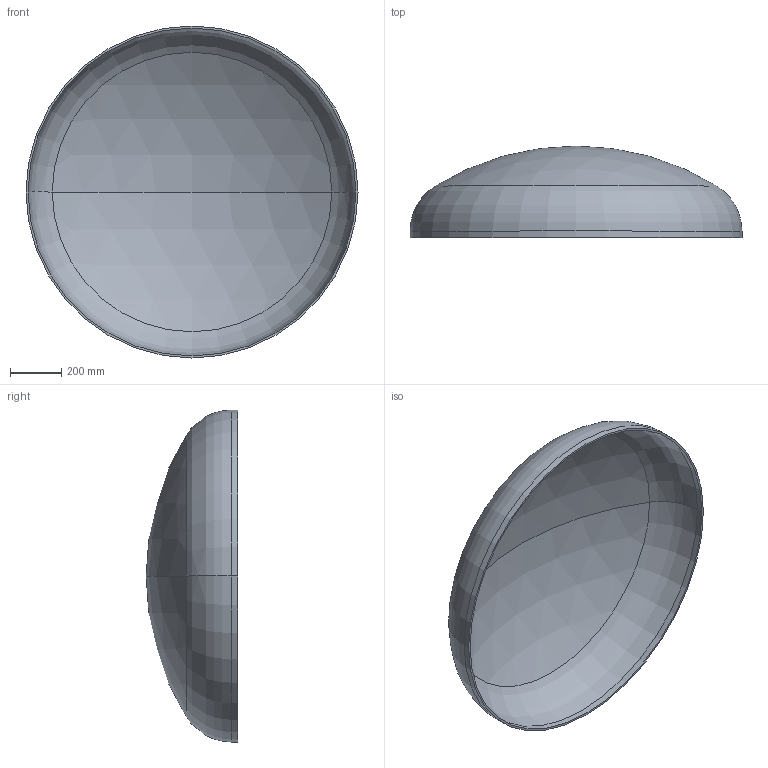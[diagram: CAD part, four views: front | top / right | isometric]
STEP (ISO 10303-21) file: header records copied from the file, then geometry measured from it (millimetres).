
FILE_DESCRIPTION (( 'STEP AP203' ), '1' );
FILE_NAME ('DIN 28013 Korbbogenform_-_Boden DIN 28013 - 1300 x 25 - I - s=8.step', '2016-07-01T09:42:04', ( '' ), ( '' ), 'SwSTEP 2.0', 'SolidWorks 2013', '' );
FILE_SCHEMA (( 'CONFIG_CONTROL_DESIGN' ));
Length unit declared in the file: millimetre
Products named in the file (1): DIN 28013 Korbbogenform_-_Boden DIN 28013 - 1300 x 25 - I - s=8
Bounding box: 1300 x 358.69 x 1300 mm (x, y, z)
Volume: 15396663.7 mm3; surface area: 3881770 mm2
Topology: 1 solids, 1 shells, 13 faces, 24 edges, 14 vertices
Faces by surface type: torus 4, cylinder 4, sphere 4, plane 1
Entity records: 407 total; most frequent: DIRECTION 72, CARTESIAN_POINT 52, ORIENTED_EDGE 48, AXIS2_PLACEMENT_3D 34, EDGE_CURVE 24, CIRCLE 20, EDGE_LOOP 14, VERTEX_POINT 14
